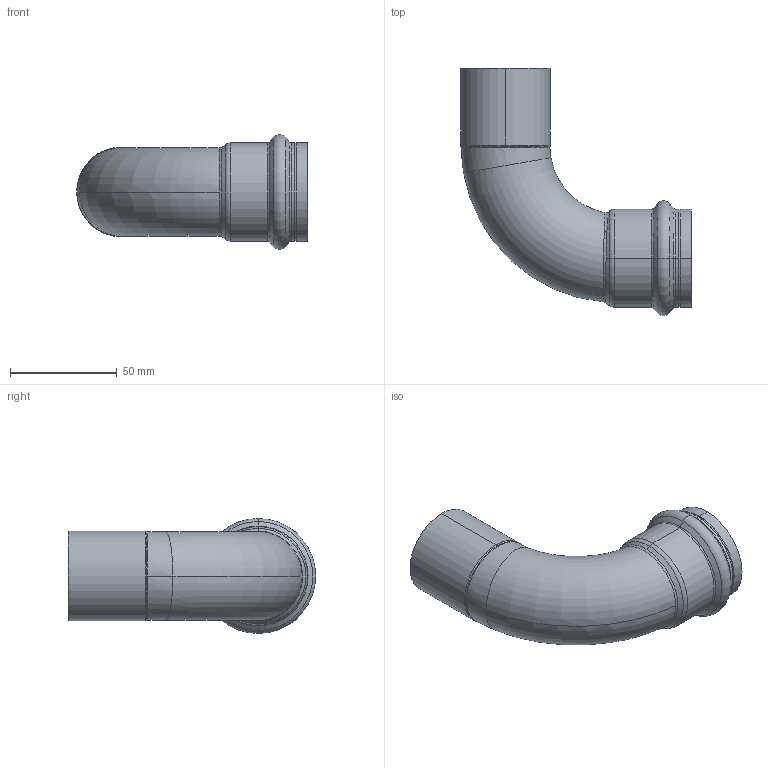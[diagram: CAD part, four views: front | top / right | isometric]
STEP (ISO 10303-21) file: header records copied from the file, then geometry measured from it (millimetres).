
FILE_DESCRIPTION (( 'STEP AP203' ), '1' );
FILE_NAME ('SP5001 Ø42.STEP', '2017-04-24T07:58:18', ( '' ), ( '' ), 'SwSTEP 2.0', 'SolidWorks 2016', '' );
FILE_SCHEMA (( 'CONFIG_CONTROL_DESIGN' ));
Length unit declared in the file: millimetre
Products named in the file (1): SP5001 ﾘ42
Bounding box: 108 x 115.93 x 53.86 mm (x, y, z)
Volume: 39543.9 mm3; surface area: 41314.9 mm2
Topology: 1 solids, 1 shells, 66 faces, 146 edges, 84 vertices
Faces by surface type: torus 22, cylinder 16, cone 14, bspline 10, plane 4
Entity records: 3854 total; most frequent: CARTESIAN_POINT 2356, DIRECTION 312, ORIENTED_EDGE 292, EDGE_CURVE 146, AXIS2_PLACEMENT_3D 141, CIRCLE 84, VERTEX_POINT 84, EDGE_LOOP 70
